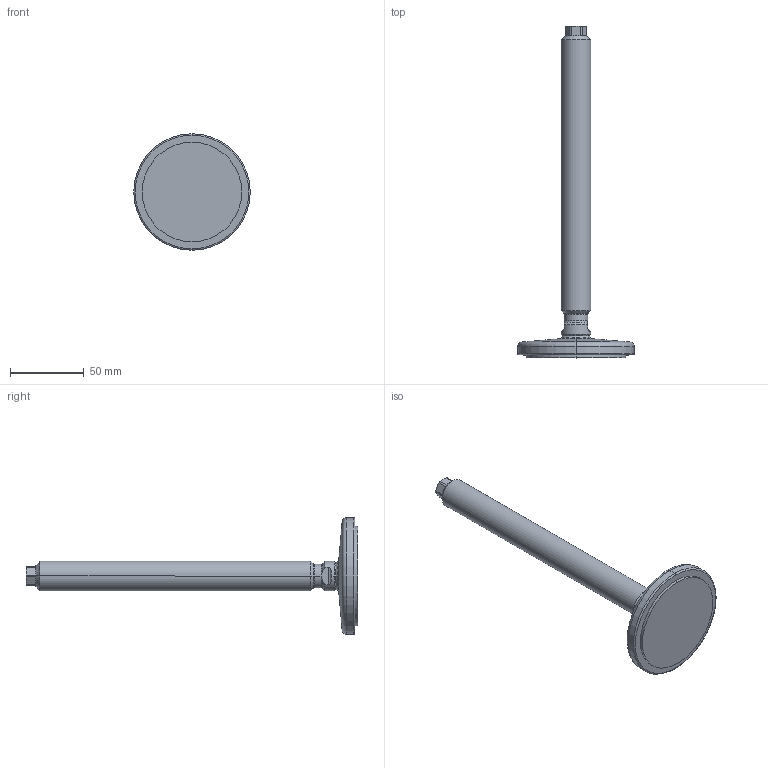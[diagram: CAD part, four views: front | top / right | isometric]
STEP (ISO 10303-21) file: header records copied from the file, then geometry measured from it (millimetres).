
FILE_DESCRIPTION (( 'STEP AP214' ), '1' );
FILE_NAME ('21-80-M20-200-D1-V.step', '2020-10-02T17:36:21', ( '' ), ( '' ), 'SwSTEP 2.0', 'SolidWorks 2019', '' );
FILE_SCHEMA (( 'AUTOMOTIVE_DESIGN' ));
Length unit declared in the file: millimetre
Products named in the file (3): 21-80-M20-200-D1-V; WB21_Spindel_V^WB21_V_M20-200; WB21_Fußteller 21^WB21_V_D1-080-R12-B9 (M20)
Assembly tree (2 placements, depth 2):
  21-80-M20-200-D1-V
    WB21_Fußteller 21^WB21_V_D1-080-R12-B9 (M20)
    WB21_Spindel_V^WB21_V_M20-200
Bounding box: 79 x 225.02 x 79 mm (x, y, z)
Volume: 118094.3 mm3; surface area: 25928.3 mm2
Topology: 2 solids, 2 shells, 76 faces, 171 edges, 101 vertices
Faces by surface type: cylinder 25, plane 20, cone 17, torus 10, sphere 4
Entity records: 2387 total; most frequent: CARTESIAN_POINT 505, DIRECTION 390, ORIENTED_EDGE 342, EDGE_CURVE 171, AXIS2_PLACEMENT_3D 166, VERTEX_POINT 101, CIRCLE 85, EDGE_LOOP 78
